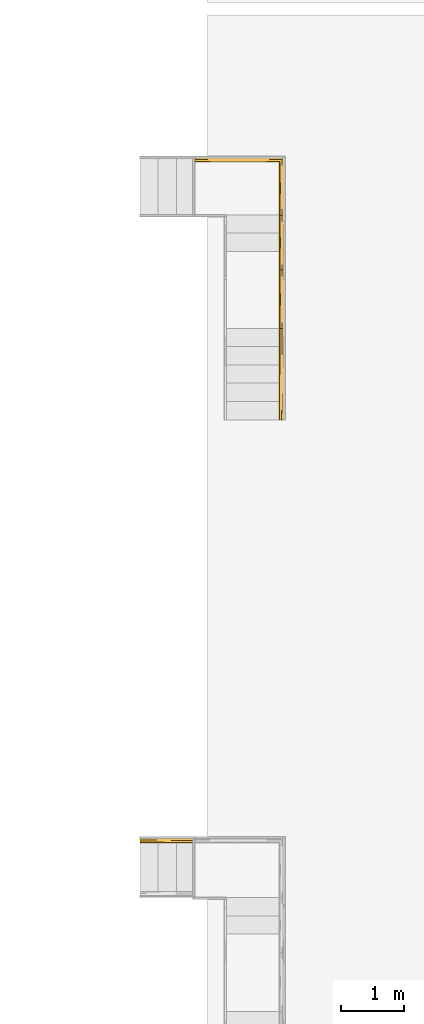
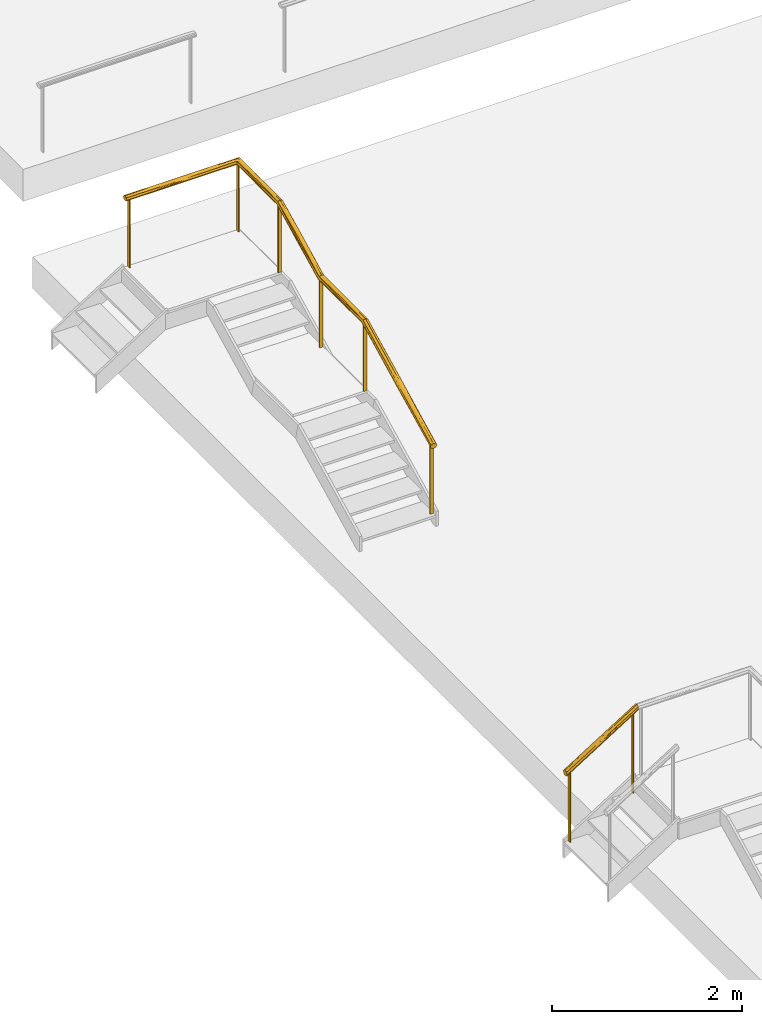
# One storey, part 10 of 15: 2 railings, 2 elements without a shape of their own.
"""IFC2X3 building model written with IfcOpenShell, lengths in centimetres."""

from ifc_helpers import new_model, entity, si_unit, converted_unit, derived_unit, direction, frame, origin, place, context, subcontext, project, spatial, faceted_brep, material, material_list, element, aggregate, save


model = new_model("IFC2X3")

# Units and contexts
model_context = context("Model", 3, precision=0.001, world=origin(), true_north=direction((6.12303176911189e-17, 1.0)))
body_context = subcontext(model_context, "Body", "Model", "MODEL_VIEW")
ifc_project = project(units=[si_unit("LENGTHUNIT", "METRE", prefix="CENTI"), si_unit("AREAUNIT", "SQUARE_METRE"), si_unit("VOLUMEUNIT", "CUBIC_METRE"), converted_unit("PLANEANGLEUNIT", "DEGREE", entity("IfcRatioMeasure", 0.0174532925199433), si_unit("PLANEANGLEUNIT", "RADIAN"), dimensions=[0, 0, 0, 0, 0, 0, 0]), si_unit("MASSUNIT", "GRAM", prefix="KILO"), si_unit("TIMEUNIT", "SECOND"), si_unit("FREQUENCYUNIT", "HERTZ"), si_unit("THERMODYNAMICTEMPERATUREUNIT", "DEGREE_CELSIUS"), derived_unit("THERMALTRANSMITTANCEUNIT", [(si_unit("MASSUNIT", "GRAM", prefix="KILO"), 1), (si_unit("THERMODYNAMICTEMPERATUREUNIT", "KELVIN"), -1), (si_unit("TIMEUNIT", "SECOND"), -3)]), derived_unit("VOLUMETRICFLOWRATEUNIT", [(si_unit("LENGTHUNIT", "METRE"), 3), (si_unit("TIMEUNIT", "SECOND"), -1)]), si_unit("ELECTRICCURRENTUNIT", "AMPERE"), si_unit("ELECTRICVOLTAGEUNIT", "VOLT"), si_unit("POWERUNIT", "WATT"), si_unit("FORCEUNIT", "NEWTON", prefix="KILO"), si_unit("ILLUMINANCEUNIT", "LUX"), si_unit("LUMINOUSFLUXUNIT", "LUMEN"), si_unit("LUMINOUSINTENSITYUNIT", "CANDELA"), derived_unit("USERDEFINED", [(si_unit("MASSUNIT", "GRAM", prefix="KILO"), -1), (si_unit("LENGTHUNIT", "METRE"), -2), (si_unit("TIMEUNIT", "SECOND"), 3), (si_unit("LUMINOUSFLUXUNIT", "LUMEN"), 1)]), derived_unit("LINEARVELOCITYUNIT", [(si_unit("LENGTHUNIT", "METRE"), 1), (si_unit("TIMEUNIT", "SECOND"), -1)]), si_unit("PRESSUREUNIT", "PASCAL"), derived_unit("USERDEFINED", [(si_unit("LENGTHUNIT", "METRE"), -2), (si_unit("MASSUNIT", "GRAM", prefix="KILO"), 1), (si_unit("TIMEUNIT", "SECOND"), -2)])], contexts=[model_context])

# Site, building, storey
site_placement = place(None, frame((8.62739174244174, -249.285249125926, 0.0)))
site = spatial("IfcSite", under=ifc_project, at=site_placement, Name="Default", CompositionType="ELEMENT")
building_placement = place(site_placement, origin())
building = spatial("IfcBuilding", under=site, at=building_placement, CompositionType="ELEMENT")
storey_placement = place(building_placement, frame((0.0, 0.0, 801.0)))
storey = spatial("IfcBuildingStorey", under=building, at=storey_placement, Name="Acrotère E3", CompositionType="ELEMENT", Elevation=801.0)

# Stair, railing
stair_1_placement = place(storey_placement, origin())
stair_1 = element("IfcStair", 1, at=stair_1_placement, inside=storey, Name="Escalier assemblé:Escalier", ShapeType="NOTDEFINED")
ifc_material_1 = material(Name="Peinture - Grise")
ifc_material_2 = material(Name="Pin (1)")
ifc_material_list_1 = material_list([ifc_material_1, ifc_material_2])
railing_1_placement = place(stair_1_placement, frame((2946.90482781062, 4263.77578472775, -0.666666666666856)))
railing_1 = element("IfcRailing", 2, at=railing_1_placement, material=ifc_material_list_1, Name="Garde-corps:Type Bateau", ObjectType="Garde-corps:Type Bateau", PredefinedType="NOTDEFINED", context=body_context, shape_type="Brep", body=[
    faceted_brep([(82.6000000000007, 2.15952722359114, 137.963695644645), (82.6000000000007, 6.15952722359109, 137.963695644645), (81.4000000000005, 6.15952722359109, 137.963695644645), (81.4000000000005, 2.15952722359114, 137.963695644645), (82.6000000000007, 2.15952722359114, 36.4444444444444), (81.4000000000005, 2.15952722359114, 36.4444444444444), (81.4000000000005, 6.15952722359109, 36.4444444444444), (82.6000000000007, 6.15952722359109, 36.4444444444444)], [[[0, 1, 2, 3]], [[4, 5, 6, 7]], [[3, 5, 4, 0]], [[2, 6, 5, 3]], [[1, 7, 6, 2]], [[0, 4, 7, 1]]]),
    faceted_brep([(5.60000000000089, 2.15952722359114, 89.5805538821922), (5.60000000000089, 6.15952722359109, 89.5805538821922), (4.40000000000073, 6.15952722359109, 89.5805538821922), (4.40000000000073, 2.15952722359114, 89.5805538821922), (5.60000000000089, 2.15952722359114, 0.0), (4.40000000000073, 2.15952722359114, 0.0), (4.40000000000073, 6.15952722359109, 0.0), (5.60000000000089, 6.15952722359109, 0.0)], [[[0, 1, 2, 3]], [[4, 5, 6, 7]], [[3, 5, 4, 0]], [[2, 6, 5, 3]], [[1, 7, 6, 2]], [[0, 4, 7, 1]]]),
    faceted_brep([(0.0, 1.48300479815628, 92.633024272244), (0.0, 3.03032293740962, 93.0783492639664), (0.0, 4.5776410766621, 93.5236742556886), (0.0, 5.98661813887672, 92.8031232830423), (0.0, 7.39559520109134, 92.0825723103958), (0.0, 7.77756121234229, 91.0412861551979), (0.0, 8.1595272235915, 90.0), (0.0, 7.49778843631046, 88.6834878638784), (0.0, 6.83604964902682, 87.3669757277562), (0.0, 5.28873150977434, 86.9216507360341), (0.0, 4.51507244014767, 86.6989882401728), (0.0, 3.741413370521, 86.4763257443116), (0.0, 2.33243630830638, 87.1968767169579), (0.0, 0.923459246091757, 87.9174276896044), (0.0, 0.541493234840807, 88.9587138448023), (0.0, 0.15952722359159, 90.0), (0.0, 0.821266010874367, 91.316512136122), (87.0, 0.821266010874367, 143.350154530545), (87.0, 1.48300479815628, 142.033642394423), (87.0, 3.03032293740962, 141.588317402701), (87.0, 4.5776410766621, 141.142992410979), (87.0, 5.98661813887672, 141.863543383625), (87.0, 7.39559520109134, 142.584094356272), (87.0, 7.77756121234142, 143.625380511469), (87.0, 8.1595272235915, 144.666666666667), (87.0, 7.49778843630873, 145.983178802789), (87.0, 6.83604964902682, 147.299690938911), (87.0, 5.28873150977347, 147.745015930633), (87.0, 3.741413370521, 148.190340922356), (87.0, 2.33243630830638, 147.469789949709), (87.0, 0.923459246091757, 146.749238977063), (87.0, 0.541493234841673, 145.707952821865), (87.0, 0.15952722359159, 144.666666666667), (36.8666003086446, 8.02411869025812, 112.251143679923), (46.6073203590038, 0.7842993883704, 117.384441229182), (45.3720805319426, 3.42748462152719, 115.026415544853), (38.2869607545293, 6.0557983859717, 110.938063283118), (43.5242527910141, 4.98840300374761, 113.882393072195), (46.5504868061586, 2.3819247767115, 116.076120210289), (36.1371269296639, 1.48583532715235, 110.071574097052), (45.8486968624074, 0.336276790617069, 117.767559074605), (26.1494504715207, 8.1595272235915, 106.431072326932), (60.8505463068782, 8.1595272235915, 128.235592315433), (43.3404633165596, 7.61809586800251, 115.45308454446), (48.2161761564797, 6.94974299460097, 117.758020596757), (60.8505463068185, 0.159527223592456, 128.235592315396), (26.1494504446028, 0.15952722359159, 106.431072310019), (46.3428116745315, 0.560433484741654, 120.665671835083), (42.8649360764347, 1.1628965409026, 119.281198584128), (39.4937956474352, 1.99016423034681, 117.792777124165), (49.7508696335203, 2.98258791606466, 124.6473253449), (42.7976339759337, 4.12025700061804, 120.434912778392), (39.769626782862, 8.06398392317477, 115.759107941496), (39.6862148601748, 7.72721402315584, 116.539078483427), (39.5561967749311, 5.2047299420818, 118.275222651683), (42.7017685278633, 7.10232025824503, 119.231526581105), (49.6878665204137, 6.21182380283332, 124.262680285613)], [[[0, 1, 2, 3, 4, 5, 6, 7, 8, 9, 10, 11, 12, 13, 14, 15, 16]], [[17, 18, 19, 20, 21, 22, 23, 24, 25, 26, 27, 28, 29, 30, 31, 32]], [[7, 6, 33]], [[14, 13, 34]], [[11, 35, 12]], [[9, 36, 37]], [[37, 36, 21]], [[12, 38, 39]], [[13, 39, 34]], [[17, 34, 18]], [[35, 38, 12]], [[10, 9, 37]], [[14, 34, 40]], [[33, 6, 41, 42, 24]], [[8, 43, 44]], [[39, 13, 12]], [[36, 8, 44]], [[17, 40, 34]], [[19, 18, 38]], [[18, 34, 39]], [[40, 17, 32]], [[40, 32, 45, 46, 15]], [[14, 40, 15]], [[39, 38, 18]], [[35, 19, 38]], [[35, 20, 19]], [[11, 10, 35]], [[20, 35, 37]], [[10, 37, 35]], [[20, 37, 21]], [[22, 21, 44]], [[36, 9, 8]], [[36, 44, 21]], [[22, 44, 43]], [[33, 23, 43]], [[7, 43, 8]], [[23, 22, 43]], [[43, 7, 33]], [[23, 33, 24]], [[30, 47, 31]], [[48, 49, 0]], [[49, 50, 1]], [[1, 50, 51]], [[52, 53, 25]], [[2, 51, 54]], [[55, 26, 25]], [[55, 53, 4]], [[52, 25, 24]], [[16, 15, 46]], [[55, 25, 53]], [[5, 4, 53]], [[5, 53, 52]], [[56, 55, 3]], [[56, 3, 54]], [[48, 29, 49]], [[26, 55, 56]], [[52, 24, 42, 41, 6]], [[54, 51, 27]], [[55, 4, 3]], [[56, 27, 26]], [[27, 56, 54]], [[28, 27, 51]], [[2, 54, 3]], [[28, 51, 50]], [[51, 2, 1]], [[50, 29, 28]], [[29, 50, 49]], [[30, 29, 48]], [[0, 49, 1]], [[31, 46, 45, 32]], [[48, 0, 16]], [[16, 47, 48]], [[5, 52, 6]], [[47, 16, 46]], [[48, 47, 30]], [[31, 47, 46]]]),
])
aggregate(stair_1, [railing_1])

stair_2_placement = place(storey_placement, origin())
stair_2 = element("IfcStair", 3, at=stair_2_placement, inside=storey, Name="Escalier assemblé:Escalier", ShapeType="NOTDEFINED")
ifc_material_list_2 = material_list([ifc_material_1, ifc_material_2])
railing_2_placement = place(stair_2_placement, frame((3033.90482781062, 4933.93172100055, -62.4444444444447)))
railing_2 = element("IfcRailing", 4, at=railing_2_placement, material=ifc_material_list_2, Name="Garde-corps:Type Bateau", ObjectType="Garde-corps:Type Bateau", PredefinedType="NOTDEFINED", context=body_context, shape_type="Brep", body=[
    faceted_brep([(135.459999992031, 144.399999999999, 159.403930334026), (139.459999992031, 144.399999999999, 159.403930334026), (139.459999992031, 145.599999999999, 159.403930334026), (135.459999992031, 145.599999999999, 159.403930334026), (135.459999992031, 144.399999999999, 72.7777777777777), (135.459999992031, 145.599999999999, 72.7777777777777), (139.459999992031, 145.599999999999, 72.7777777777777), (139.459999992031, 144.399999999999, 72.7777777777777)], [[[0, 1, 2, 3]], [[4, 5, 6, 7]], [[3, 5, 4, 0]], [[2, 6, 5, 3]], [[1, 7, 6, 2]], [[0, 4, 7, 1]]]),
    faceted_brep([(135.459999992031, 236.94551477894, 159.403930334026), (139.459999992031, 236.94551477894, 159.403930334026), (139.459999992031, 238.145514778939, 159.403930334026), (135.459999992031, 238.145514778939, 159.403930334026), (135.459999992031, 236.94551477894, 72.7777777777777), (135.459999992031, 238.145514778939, 72.7777777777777), (139.459999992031, 238.145514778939, 72.7777777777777), (139.459999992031, 236.94551477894, 72.7777777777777)], [[[0, 1, 2, 3]], [[4, 5, 6, 7]], [[3, 5, 4, 0]], [[2, 6, 5, 3]], [[1, 7, 6, 2]], [[0, 4, 7, 1]]]),
    faceted_brep([(135.459999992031, 323.945514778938, 203.429097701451), (139.459999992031, 323.945514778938, 203.429097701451), (139.459999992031, 325.145514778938, 203.429097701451), (135.459999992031, 325.145514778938, 203.429097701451), (135.459999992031, 323.945514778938, 116.444444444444), (135.459999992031, 325.145514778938, 116.444444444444), (139.459999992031, 325.145514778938, 116.444444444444), (139.459999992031, 323.945514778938, 116.444444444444)], [[[0, 1, 2, 3]], [[4, 5, 6, 7]], [[3, 5, 4, 0]], [[2, 6, 5, 3]], [[1, 7, 6, 2]], [[0, 4, 7, 1]]]),
    faceted_brep([(138.059999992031, 410.005514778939, 203.429097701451), (138.059999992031, 414.005514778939, 203.429097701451), (136.859999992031, 414.005514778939, 203.429097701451), (136.859999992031, 410.005514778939, 203.429097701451), (138.059999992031, 410.005514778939, 116.444444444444), (136.859999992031, 410.005514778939, 116.444444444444), (136.859999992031, 414.005514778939, 116.444444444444), (138.059999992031, 414.005514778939, 116.444444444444)], [[[0, 1, 2, 3]], [[4, 5, 6, 7]], [[3, 5, 4, 0]], [[2, 6, 5, 3]], [[1, 7, 6, 2]], [[0, 4, 7, 1]]]),
    faceted_brep([(135.45999999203, 4.399999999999, 89.1357311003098), (139.45999999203, 4.399999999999, 89.1357311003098), (139.45999999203, 5.59999999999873, 89.1357311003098), (135.45999999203, 5.59999999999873, 89.1357311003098), (135.45999999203, 4.399999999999, 0.0), (135.45999999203, 5.59999999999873, 0.0), (139.45999999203, 5.59999999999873, 0.0), (139.45999999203, 4.399999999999, 0.0)], [[[0, 1, 2, 3]], [[4, 5, 6, 7]], [[3, 5, 4, 0]], [[2, 6, 5, 3]], [[1, 7, 6, 2]], [[0, 4, 7, 1]]]),
    faceted_brep([(5.60000000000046, 410.005514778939, 203.429097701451), (5.60000000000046, 414.005514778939, 203.429097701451), (4.4000000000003, 414.005514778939, 203.429097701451), (4.4000000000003, 410.005514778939, 203.429097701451), (5.60000000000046, 410.005514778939, 116.444444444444), (4.4000000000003, 410.005514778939, 116.444444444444), (4.4000000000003, 414.005514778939, 116.444444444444), (5.60000000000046, 414.005514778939, 116.444444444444)], [[[0, 1, 2, 3]], [[4, 5, 6, 7]], [[3, 5, 4, 0]], [[2, 6, 5, 3]], [[1, 7, 6, 2]], [[0, 4, 7, 1]]]),
    faceted_brep([(0.0, 415.343775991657, 205.329727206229), (0.0, 414.682037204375, 204.215009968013), (0.0, 413.134719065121, 203.837944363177), (0.0, 411.587400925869, 203.46087875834), (0.0, 410.178423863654, 204.070983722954), (0.0, 408.76944680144, 204.681088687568), (0.0, 408.369559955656, 205.60413255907), (0.0, 408.00551477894, 206.444444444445), (0.0, 408.492504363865, 207.264791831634), (0.0, 408.910748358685, 207.969335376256), (0.0, 409.328992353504, 208.673878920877), (0.0, 410.876310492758, 209.050944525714), (0.0, 412.42362863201, 209.42801013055), (0.0, 413.832605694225, 208.817905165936), (0.0, 415.241582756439, 208.207800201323), (0.0, 415.623548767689, 207.326122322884), (0.0, 416.00551477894, 206.444444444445), (137.04188613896, 411.587400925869, 203.46087875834), (135.632909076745, 410.178423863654, 204.070983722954), (68.5209428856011, 410.781049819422, 203.588462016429), (67.8164544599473, 409.831948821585, 203.92600619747), (67.1119661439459, 409.060436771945, 204.414379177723), (134.223932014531, 408.76944680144, 204.681088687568), (133.841966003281, 408.38748079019, 205.562766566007), (67.111965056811, 408.443465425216, 205.079567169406), (72.4657254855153, 408.115744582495, 205.745016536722), (133.459999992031, 408.00551477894, 206.444444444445), (84.3241081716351, 408.00551477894, 206.444444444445), (81.9050178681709, 408.00551477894, 206.444444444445), (70.0682611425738, 414.017353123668, 203.85151465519), (68.5209431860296, 412.423628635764, 203.460878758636), (70.0682612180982, 414.844862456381, 204.331346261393), (75.1517011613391, 415.637004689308, 205.186705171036), (140.561755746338, 415.107270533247, 204.931327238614), (57.1358878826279, 416.00551477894, 206.444444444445), (59.5549857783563, 416.00551477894, 206.444444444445), (141.459999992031, 416.00551477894, 206.444444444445), (140.986989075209, 415.532503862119, 205.647644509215), (138.589204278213, 413.134719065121, 203.837944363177), (140.136522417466, 414.682037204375, 204.215009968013), (140.881468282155, 415.426983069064, 205.469891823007), (140.50899534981, 415.054510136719, 204.84245089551), (70.3480330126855, 415.569540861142, 207.806415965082), (140.69606796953, 415.241582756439, 208.207800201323), (140.997484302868, 415.542999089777, 207.51205213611), (141.07803398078, 415.623548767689, 207.326122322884), (78.6795816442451, 415.900159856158, 207.1284426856), (69.6435457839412, 413.25336606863, 209.294727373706), (70.3480341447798, 414.90403475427, 208.511858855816), (136.330795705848, 410.876310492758, 209.050944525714), (137.878113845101, 412.42362863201, 209.42801013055), (68.9390570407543, 411.600789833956, 209.429048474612), (67.3917388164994, 408.960065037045, 208.389423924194), (67.3917387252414, 409.847091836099, 208.970197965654), (62.3048909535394, 408.387594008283, 207.723991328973), (139.287090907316, 413.832605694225, 208.817905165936), (134.121738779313, 408.667253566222, 207.559161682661), (134.783477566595, 409.328992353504, 208.673878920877), (66.6385448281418, 414.143602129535, 208.979908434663), (72.3692414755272, 410.687238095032, 209.27683874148), (133.898922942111, 366.866330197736, 205.078140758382), (134.223932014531, 324.963212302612, 204.681088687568), (133.908536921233, 324.790762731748, 205.409103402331), (133.841966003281, 324.754363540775, 205.562766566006), (134.482339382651, 366.86632948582, 204.441293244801), (133.567266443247, 368.330755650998, 205.754352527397), (136.222150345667, 367.643077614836, 203.591709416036), (135.632909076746, 325.107731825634, 204.070983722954), (137.04188613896, 325.252251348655, 203.46087875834), (141.314125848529, 367.906654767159, 205.641659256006), (140.47354820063, 369.877826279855, 204.471712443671), (141.45999999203, 383.62049812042, 206.444444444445), (141.45999999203, 358.44714305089, 206.444444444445), (141.459999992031, 324.545514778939, 206.444444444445), (137.898409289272, 369.148826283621, 203.462517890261), (138.589204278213, 325.16293337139, 203.837944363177), (139.477985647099, 369.877826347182, 203.854203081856), (140.136522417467, 325.073615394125, 204.215009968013), (133.459999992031, 324.545514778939, 206.444444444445), (133.459999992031, 356.930533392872, 206.444444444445), (133.459999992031, 358.447141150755, 206.444444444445), (140.798261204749, 324.809565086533, 205.329727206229), (140.506859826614, 324.925841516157, 204.838853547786), (135.234044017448, 367.643077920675, 203.951879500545), (140.877197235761, 324.778067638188, 205.462697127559), (138.694240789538, 368.131203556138, 209.29805889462), (140.173245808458, 369.684699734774, 208.648767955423), (141.078033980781, 324.336666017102, 207.326122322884), (140.696067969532, 324.127817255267, 208.207800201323), (140.965303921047, 369.684700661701, 207.889600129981), (141.342443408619, 375.812339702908, 207.16640782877), (137.062022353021, 368.131203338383, 209.429558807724), (135.460992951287, 366.673203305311, 209.042950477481), (136.330795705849, 323.928096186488, 209.050944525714), (134.228887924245, 366.67320322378, 208.212904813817), (137.878113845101, 323.838778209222, 209.42801013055), (139.287090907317, 323.983297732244, 208.817905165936), (133.601303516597, 368.413585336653, 207.234782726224), (134.783477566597, 324.017414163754, 208.673878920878), (134.060975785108, 324.305710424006, 207.456804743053), (134.121738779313, 324.281464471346, 207.559161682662), (133.945294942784, 281.314686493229, 183.143674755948), (134.717318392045, 281.651787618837, 182.472043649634), (141.312553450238, 279.181758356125, 182.772694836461), (134.223932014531, 237.963212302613, 161.014422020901), (133.574121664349, 286.391764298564, 186.498394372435), (133.459999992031, 268.80418466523, 178.466995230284), (141.459999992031, 293.286846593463, 190.755227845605), (141.45999999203, 268.804184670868, 178.466995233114), (141.459999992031, 237.54551477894, 162.777777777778), (136.225706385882, 281.693951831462, 181.743699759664), (133.841966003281, 237.754363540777, 161.896099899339), (133.459999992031, 237.54551477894, 162.777777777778), (138.589204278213, 238.162933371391, 160.17127769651), (139.459000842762, 281.659348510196, 182.01175321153), (140.136522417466, 238.073615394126, 160.548343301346), (135.632909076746, 238.107731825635, 160.404317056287), (137.87696652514, 281.752291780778, 181.627464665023), (140.798261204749, 237.809565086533, 161.663060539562), (140.755568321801, 285.02660265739, 184.706896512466), (137.041886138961, 238.252251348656, 159.794212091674), (141.022393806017, 280.806795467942, 186.017878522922), (140.696067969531, 237.127817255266, 164.541133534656), (141.00015569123, 237.294084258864, 163.839219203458), (141.07803398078, 237.336666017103, 163.659455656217), (140.356109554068, 280.490569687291, 186.647914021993), (141.358004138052, 285.298480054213, 187.498922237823), (138.697842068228, 280.26830245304, 187.412920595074), (133.607446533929, 282.909271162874, 186.449527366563), (134.225934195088, 280.725562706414, 186.425837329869), (134.042802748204, 237.312961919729, 163.759525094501), (139.287090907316, 236.983297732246, 165.15123849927), (137.878113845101, 236.838778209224, 165.761343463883), (134.783477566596, 237.017414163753, 165.00721225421), (136.330795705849, 236.928096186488, 165.384277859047), (135.459001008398, 280.352241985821, 187.169629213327), (137.043033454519, 280.338737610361, 187.594757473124), (139.592003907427, 282.426892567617, 188.144579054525), (134.4131401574, 237.165188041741, 164.383368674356), (134.057494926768, 237.307099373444, 163.784274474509), (133.897689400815, 191.690455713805, 161.41328406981), (134.223932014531, 145.417697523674, 161.014422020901), (133.841966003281, 145.208848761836, 161.896099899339), (134.563686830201, 191.690454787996, 160.708624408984), (133.562820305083, 196.209670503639, 162.101948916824), (136.222067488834, 191.834974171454, 159.925062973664), (141.309925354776, 193.291900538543, 161.963734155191), (140.693963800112, 191.800857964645, 161.012251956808), (140.862505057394, 145.238415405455, 161.771281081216), (135.632909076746, 145.562217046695, 160.404317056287), (137.04188613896, 145.706736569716, 159.794212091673), (140.136522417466, 145.528100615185, 160.548343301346), (138.589204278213, 145.617418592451, 160.171277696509), (139.461049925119, 191.800858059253, 160.180156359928), (141.459999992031, 145.0, 162.777777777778), (141.459999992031, 179.102217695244, 162.777777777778), (137.87690800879, 191.97949386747, 159.794117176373), (133.459999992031, 179.102219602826, 162.777777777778), (133.459999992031, 203.443297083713, 162.777777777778), (133.459999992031, 145.0, 162.777777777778), (135.327828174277, 193.96220938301, 160.23951323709), (140.798261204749, 145.264050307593, 161.663060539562), (140.965875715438, 190.855060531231, 164.22215304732), (140.169538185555, 190.8550595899, 164.984665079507), (133.610074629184, 189.253614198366, 163.591821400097), (140.696067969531, 144.582302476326, 164.541133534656), (141.342880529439, 196.894820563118, 163.498417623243), (138.694203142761, 190.566020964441, 165.631401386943), (141.078033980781, 144.791151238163, 163.659455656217), (136.330795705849, 144.382581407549, 165.384277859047), (135.461050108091, 190.655338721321, 165.376308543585), (134.783477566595, 144.471899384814, 165.00721225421), (139.287090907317, 144.437782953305, 165.151238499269), (137.043091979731, 190.566020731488, 165.761438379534), (134.121738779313, 144.735949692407, 163.892495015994), (134.17488779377, 194.001589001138, 164.489362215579), (137.878113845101, 144.293263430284, 165.761343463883), (133.91275108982, 144.819341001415, 163.540449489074), (137.04188613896, 0.0, 93.3382878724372), (135.632909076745, 0.0, 92.6556462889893), (134.223932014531, 0.0, 91.9730047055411), (133.841966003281, 0.0, 90.9865023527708), (133.459999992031, 0.0, 90.0), (134.121738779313, 0.0, 88.7527517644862), (134.783477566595, 0.0, 87.5055035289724), (136.330795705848, 0.0, 87.0836078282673), (137.104454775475, 0.0, 86.8726599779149), (137.878113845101, 0.0, 86.6617121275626), (139.287090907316, 0.0, 87.3443537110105), (140.69606796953, 0.0, 88.0269952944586), (141.07803398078, 0.0, 89.0134976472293), (141.45999999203, 0.0, 90.0), (140.798261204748, 0.0, 91.2472482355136), (140.136522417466, 0.0, 92.4944964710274), (138.589204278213, 0.0, 92.9163921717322), (133.732049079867, 72.899499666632, 125.372643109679), (135.950669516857, 76.5910401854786, 125.33370300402), (134.985819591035, 77.2526442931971, 126.136809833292), (134.226057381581, 60.647920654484, 118.464686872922), (133.459999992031, 64.2904624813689, 122.268393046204), (139.615085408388, 79.7017189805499, 127.175706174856), (138.603036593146, 63.5990816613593, 118.704670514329), (137.461469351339, 72.9030265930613, 123.234498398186), (140.453585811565, 73.670946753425, 124.750284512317), (141.061064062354, 67.923006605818, 122.630327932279), (141.45999999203, 80.7095340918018, 130.509383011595), (133.459999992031, 80.7095340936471, 130.50938301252), (141.45999999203, 64.2904624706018, 122.2683930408), (141.087887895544, 76.1935664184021, 129.656549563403), (140.506610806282, 69.0814872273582, 126.84816093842), (139.676637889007, 67.4220698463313, 126.634328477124), (138.695191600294, 85.0388166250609, 135.874945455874), (137.548535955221, 69.591394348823, 128.284867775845), (133.894065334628, 66.2616694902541, 124.778524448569), (133.566526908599, 63.2706312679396, 122.526031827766), (136.449161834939, 66.8401118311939, 126.795827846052), (134.526569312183, 70.5507060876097, 127.692520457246), (135.436276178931, 83.3636615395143, 134.736912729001)], [[[0, 1, 2, 3, 4, 5, 6, 7, 8, 9, 10, 11, 12, 13, 14, 15, 16]], [[17, 18, 19]], [[4, 20, 21]], [[22, 23, 24]], [[25, 26, 27, 28, 7]], [[24, 23, 25]], [[29, 30, 2]], [[21, 24, 5]], [[20, 4, 19]], [[31, 32, 33]], [[30, 19, 3]], [[29, 1, 31]], [[0, 16, 34, 35]], [[35, 36, 37]], [[0, 35, 32]], [[2, 30, 3]], [[26, 25, 23]], [[38, 29, 39]], [[22, 24, 21]], [[5, 24, 6]], [[22, 21, 18]], [[21, 5, 4]], [[25, 6, 24]], [[6, 25, 7]], [[17, 19, 30]], [[3, 19, 4]], [[39, 29, 31]], [[1, 29, 2]], [[32, 37, 40, 33]], [[31, 1, 0]], [[31, 33, 41, 39]], [[37, 32, 35]], [[0, 32, 31]], [[30, 38, 17]], [[38, 30, 29]], [[20, 18, 21]], [[18, 20, 19]], [[42, 43, 44, 45]], [[34, 16, 15]], [[42, 45, 46]], [[12, 47, 13]], [[13, 48, 14]], [[49, 50, 51]], [[10, 52, 53]], [[15, 46, 34]], [[15, 14, 42]], [[54, 8, 27]], [[12, 11, 51]], [[52, 10, 9]], [[55, 47, 50]], [[14, 48, 42]], [[26, 56, 27]], [[8, 7, 28, 27]], [[57, 53, 52]], [[57, 49, 53]], [[43, 42, 48]], [[45, 36, 46]], [[48, 55, 43]], [[58, 47, 55]], [[42, 46, 15]], [[46, 36, 35, 34]], [[9, 8, 54]], [[52, 56, 57]], [[56, 52, 54]], [[53, 11, 10]], [[59, 51, 11]], [[9, 54, 52]], [[56, 54, 27]], [[59, 49, 51]], [[12, 51, 47]], [[51, 50, 47]], [[13, 47, 58]], [[59, 53, 49]], [[53, 59, 11]], [[58, 48, 13]], [[48, 58, 55]], [[60, 61, 62, 63]], [[22, 64, 60]], [[65, 60, 63]], [[17, 66, 18]], [[18, 64, 22]], [[67, 66, 68]], [[69, 70, 41]], [[60, 65, 23]], [[69, 36, 71, 72, 73]], [[38, 74, 17]], [[75, 76, 77]], [[23, 22, 60]], [[68, 74, 75]], [[69, 41, 33, 40, 37, 36]], [[38, 39, 76]], [[65, 78, 79, 80, 26]], [[70, 81, 82, 77]], [[61, 60, 64]], [[64, 67, 61]], [[67, 64, 83]], [[63, 78, 65]], [[23, 65, 26]], [[74, 68, 66]], [[18, 66, 83]], [[74, 38, 76]], [[70, 39, 41]], [[66, 17, 74]], [[75, 74, 76]], [[70, 77, 76]], [[39, 70, 76]], [[69, 81, 70]], [[69, 73, 84, 81]], [[67, 83, 66]], [[83, 64, 18]], [[85, 86, 55]], [[72, 87, 73]], [[86, 88, 89]], [[89, 88, 87]], [[89, 90, 44]], [[91, 92, 93]], [[89, 43, 86]], [[90, 72, 71, 36]], [[57, 56, 94]], [[85, 95, 96]], [[56, 26, 97]], [[92, 98, 93]], [[97, 26, 80, 79, 78]], [[97, 99, 94]], [[86, 85, 96]], [[92, 94, 98]], [[44, 43, 89]], [[49, 91, 50]], [[88, 86, 96]], [[86, 43, 55]], [[90, 89, 87]], [[90, 36, 45, 44]], [[72, 90, 87]], [[57, 94, 92]], [[99, 97, 78]], [[94, 99, 100, 98]], [[50, 91, 85]], [[95, 91, 93]], [[92, 49, 57]], [[49, 92, 91]], [[95, 85, 91]], [[50, 85, 55]], [[56, 97, 94]], [[101, 61, 102]], [[103, 84, 73]], [[102, 104, 101]], [[78, 105, 106]], [[101, 105, 62]], [[103, 73, 107, 108, 109]], [[110, 102, 67]], [[106, 111, 112]], [[62, 61, 101]], [[113, 114, 115]], [[116, 102, 110]], [[117, 68, 75]], [[118, 115, 119]], [[120, 116, 110]], [[113, 120, 117]], [[114, 75, 77]], [[119, 77, 82, 81, 84]], [[101, 104, 111]], [[104, 102, 116]], [[102, 61, 67]], [[105, 101, 111]], [[105, 78, 63, 62]], [[106, 105, 111]], [[120, 110, 117]], [[68, 110, 67]], [[114, 77, 119]], [[118, 119, 103]], [[114, 113, 117]], [[68, 117, 110]], [[119, 115, 114]], [[75, 114, 117]], [[84, 103, 119]], [[118, 103, 109]], [[121, 122, 123, 124]], [[88, 125, 121]], [[126, 121, 124]], [[95, 127, 96]], [[96, 125, 88]], [[128, 100, 99, 78]], [[129, 128, 130]], [[121, 126, 87]], [[98, 100, 129]], [[131, 127, 132]], [[133, 134, 135]], [[128, 112, 130]], [[128, 78, 106, 112]], [[136, 95, 93]], [[87, 88, 121]], [[136, 135, 134]], [[126, 108, 107, 73]], [[135, 136, 93]], [[122, 121, 125]], [[109, 108, 124]], [[125, 131, 122]], [[137, 127, 131]], [[87, 126, 73]], [[108, 126, 124]], [[136, 132, 127]], [[96, 127, 137]], [[98, 129, 135]], [[138, 133, 129, 130, 139]], [[95, 136, 127]], [[132, 136, 134]], [[133, 135, 129]], [[98, 135, 93]], [[100, 128, 129]], [[137, 125, 96]], [[125, 137, 131]], [[140, 141, 142]], [[104, 143, 140]], [[144, 140, 142]], [[120, 145, 116]], [[116, 143, 104]], [[109, 146, 118]], [[147, 146, 148]], [[140, 144, 111]], [[115, 118, 147]], [[149, 145, 150]], [[151, 152, 153]], [[146, 154, 148]], [[146, 109, 155, 154]], [[156, 120, 113]], [[111, 104, 140]], [[156, 153, 152]], [[144, 157, 158, 112]], [[153, 156, 113]], [[141, 140, 143]], [[159, 157, 142]], [[143, 149, 141]], [[160, 145, 149]], [[111, 144, 112]], [[157, 144, 142]], [[156, 150, 145]], [[116, 145, 160]], [[115, 147, 153]], [[147, 148, 161, 151]], [[120, 156, 145]], [[150, 156, 152]], [[151, 153, 147]], [[115, 153, 113]], [[118, 146, 147]], [[160, 143, 116]], [[143, 160, 149]], [[162, 122, 163]], [[164, 139, 130, 112]], [[163, 165, 162]], [[109, 166, 155]], [[162, 166, 123]], [[164, 112, 158, 157, 159]], [[167, 163, 131]], [[155, 168, 154]], [[123, 122, 162]], [[169, 170, 171]], [[172, 163, 167]], [[173, 132, 134]], [[174, 171, 175]], [[176, 172, 167]], [[169, 176, 173]], [[170, 134, 133]], [[175, 133, 138, 139]], [[162, 165, 168]], [[165, 163, 172]], [[163, 122, 131]], [[166, 162, 168]], [[166, 109, 124, 123]], [[155, 166, 168]], [[176, 167, 173]], [[132, 167, 131]], [[170, 133, 175]], [[174, 175, 164]], [[170, 169, 173]], [[132, 173, 167]], [[175, 171, 170]], [[134, 170, 173]], [[139, 164, 175]], [[164, 159, 177, 174]], [[178, 179, 180, 181, 182, 183, 184, 185, 186, 187, 188, 189, 190, 191, 192, 193, 194]], [[195, 183, 182]], [[185, 184, 196, 186]], [[141, 197, 198]], [[197, 196, 184]], [[149, 196, 197]], [[199, 195, 182]], [[200, 201, 152]], [[198, 183, 195]], [[152, 201, 202]], [[203, 200, 151]], [[189, 204, 190]], [[184, 198, 197]], [[203, 188, 200]], [[198, 184, 183]], [[187, 202, 201]], [[205, 161, 148, 154]], [[195, 142, 141]], [[187, 186, 202]], [[142, 199, 206, 159]], [[149, 197, 141]], [[196, 149, 150]], [[196, 150, 202]], [[196, 202, 186]], [[202, 150, 152]], [[201, 188, 187]], [[188, 201, 200]], [[189, 188, 203]], [[151, 200, 152]], [[190, 205, 207, 191]], [[203, 151, 161]], [[161, 204, 203]], [[198, 195, 141]], [[204, 161, 205]], [[142, 195, 199]], [[203, 204, 189]], [[190, 204, 205]], [[165, 208, 168]], [[209, 210, 193]], [[210, 211, 194]], [[212, 211, 176]], [[213, 177, 214]], [[178, 212, 215]], [[216, 171, 174]], [[216, 213, 180]], [[177, 213, 174]], [[192, 191, 207]], [[216, 174, 213]], [[181, 180, 213]], [[177, 159, 206]], [[217, 216, 179]], [[217, 179, 215]], [[209, 172, 210]], [[171, 216, 217]], [[214, 206, 199, 182]], [[215, 212, 169]], [[216, 180, 179]], [[217, 169, 171]], [[169, 217, 215]], [[176, 169, 212]], [[178, 215, 179]], [[172, 176, 211]], [[212, 178, 194]], [[172, 211, 210]], [[211, 212, 194]], [[165, 172, 209]], [[193, 210, 194]], [[168, 207, 205, 154]], [[209, 193, 192]], [[192, 208, 209]], [[181, 213, 214]], [[208, 192, 207]], [[181, 214, 182]], [[206, 214, 177]], [[209, 208, 165]], [[168, 208, 207]]]),
])
aggregate(stair_2, [railing_2])

save(model, "model.ifc")
